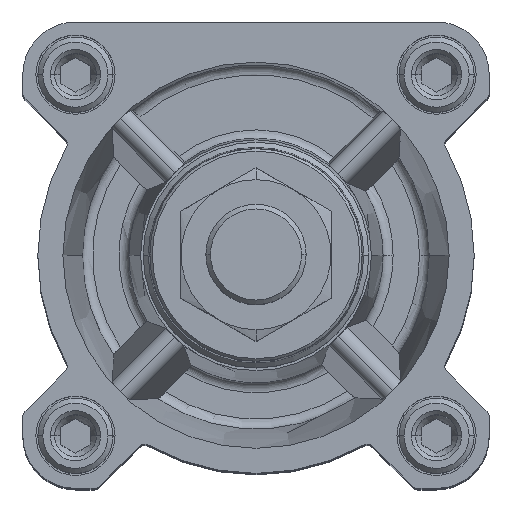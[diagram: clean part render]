
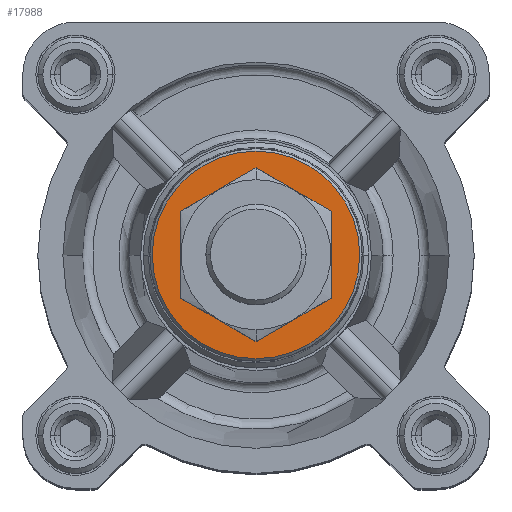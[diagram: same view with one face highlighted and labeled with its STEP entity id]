
A CAD part, top view. The second image highlights one B-rep face of the part: STEP entity #17988.
In plain terms, the highlighted planar face has unit normal (0, 0, 1).
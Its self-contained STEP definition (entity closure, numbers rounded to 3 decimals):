
#30 = CARTESIAN_POINT ( 'NONE',  ( 0., 0., 34.2 ) ) ;
#214 = EDGE_LOOP ( 'NONE', ( #8420, #12217 ) ) ;
#665 = CARTESIAN_POINT ( 'NONE',  ( -12.5, 0., 34.2 ) ) ;
#2674 = DIRECTION ( 'NONE',  ( 0., 0., -1. ) ) ;
#3790 = VERTEX_POINT ( 'NONE', #12611 ) ;
#4805 = AXIS2_PLACEMENT_3D ( 'NONE', #4816, #17840, #9160 ) ;
#4816 = CARTESIAN_POINT ( 'NONE',  ( 0., 0., 34.2 ) ) ;
#5184 = FACE_OUTER_BOUND ( 'NONE', #214, .T. ) ;
#5288 = CARTESIAN_POINT ( 'NONE',  ( 0., 0., 34.2 ) ) ;
#5779 = VERTEX_POINT ( 'NONE', #14747 ) ;
#7220 = DIRECTION ( 'NONE',  ( 0., 0., -1. ) ) ;
#7511 = EDGE_CURVE ( 'NONE', #18040, #7592, #14460, .T. ) ;
#7592 = VERTEX_POINT ( 'NONE', #665 ) ;
#7851 = EDGE_CURVE ( 'NONE', #5779, #3790, #15046, .T. ) ;
#8033 = PLANE ( 'NONE',  #9523 ) ;
#8420 = ORIENTED_EDGE ( 'NONE', *, *, #7851, .F. ) ;
#8551 = DIRECTION ( 'NONE',  ( -1., 0., 0. ) ) ;
#8599 = EDGE_CURVE ( 'NONE', #3790, #5779, #14911, .T. ) ;
#9160 = DIRECTION ( 'NONE',  ( -1., 0., 0. ) ) ;
#9176 = CARTESIAN_POINT ( 'NONE',  ( 0., 0., 34.2 ) ) ;
#9257 = FACE_BOUND ( 'NONE', #13939, .T. ) ;
#9523 = AXIS2_PLACEMENT_3D ( 'NONE', #9176, #9538, #10596 ) ;
#9538 = DIRECTION ( 'NONE',  ( 0., 0., -1. ) ) ;
#9655 = AXIS2_PLACEMENT_3D ( 'NONE', #30, #7220, #14770 ) ;
#10394 = AXIS2_PLACEMENT_3D ( 'NONE', #18543, #2674, #8551 ) ;
#10596 = DIRECTION ( 'NONE',  ( 0., -1., 0. ) ) ;
#12005 = ORIENTED_EDGE ( 'NONE', *, *, #14361, .T. ) ;
#12110 = AXIS2_PLACEMENT_3D ( 'NONE', #5288, #18420, #12569 ) ;
#12217 = ORIENTED_EDGE ( 'NONE', *, *, #8599, .F. ) ;
#12569 = DIRECTION ( 'NONE',  ( -1., 0., 0. ) ) ;
#12611 = CARTESIAN_POINT ( 'NONE',  ( 20.686, 0., 34.2 ) ) ;
#13939 = EDGE_LOOP ( 'NONE', ( #12005, #15497 ) ) ;
#14361 = EDGE_CURVE ( 'NONE', #7592, #18040, #18439, .T. ) ;
#14460 = CIRCLE ( 'NONE', #9655, 12.5 ) ;
#14747 = CARTESIAN_POINT ( 'NONE',  ( -20.686, 0., 34.2 ) ) ;
#14770 = DIRECTION ( 'NONE',  ( -1., 0., 0. ) ) ;
#14911 = CIRCLE ( 'NONE', #10394, 20.686 ) ;
#15046 = CIRCLE ( 'NONE', #4805, 20.686 ) ;
#15497 = ORIENTED_EDGE ( 'NONE', *, *, #7511, .T. ) ;
#17840 = DIRECTION ( 'NONE',  ( 0., 0., -1. ) ) ;
#17988 = ADVANCED_FACE ( 'NONE', ( #5184, #9257 ), #8033, .F. ) ;
#18040 = VERTEX_POINT ( 'NONE', #18310 ) ;
#18310 = CARTESIAN_POINT ( 'NONE',  ( 12.5, 0., 34.2 ) ) ;
#18420 = DIRECTION ( 'NONE',  ( 0., 0., -1. ) ) ;
#18439 = CIRCLE ( 'NONE', #12110, 12.5 ) ;
#18543 = CARTESIAN_POINT ( 'NONE',  ( 0., 0., 34.2 ) ) ;
